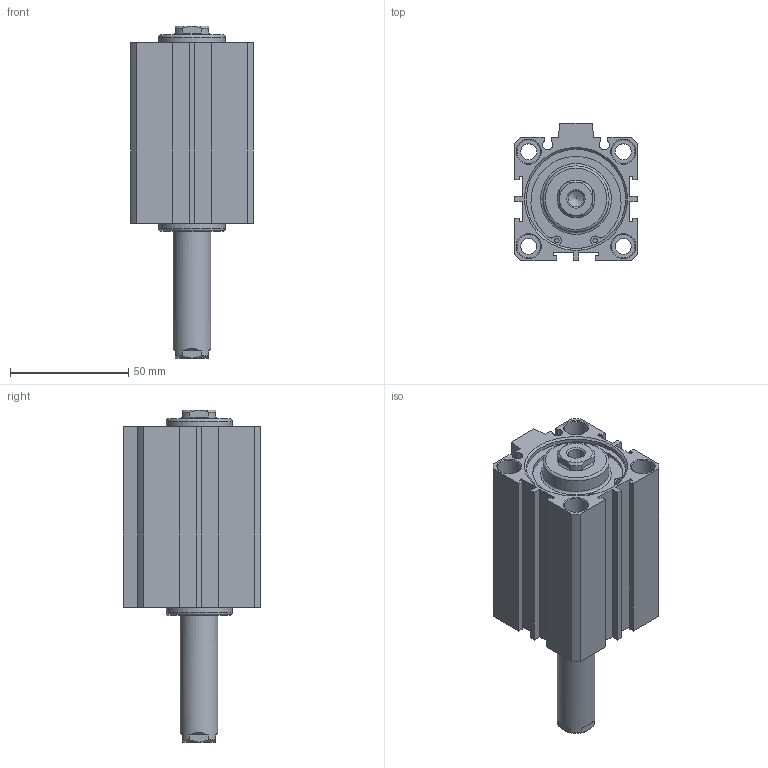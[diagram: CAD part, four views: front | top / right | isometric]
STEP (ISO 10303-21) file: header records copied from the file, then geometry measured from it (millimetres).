
FILE_DESCRIPTION((''),'2;1');
FILE_NAME('I:\3D電子目錄\氣缸\JDD\JDD\JDD40\JDD40x50.stp','2007-02-08T10:55:59',('662F206'),(''),'Autodesk Inventor 10','Autodesk Inventor 10','');
FILE_SCHEMA(('AUTOMOTIVE_DESIGN { 1 0 10303 214 1 1 1 1 }'));
Length unit declared in the file: millimetre
Products named in the file (3): JDD40; R 形環 42
Assembly tree (3 placements, depth 2):
  JDD40
    JDD40
    R 形環 42  x2
Bounding box: 52 x 58 x 140.5 mm (x, y, z)
Volume: 191606.7 mm3; surface area: 43467.2 mm2
Topology: 3 solids, 3 shells, 179 faces, 431 edges, 280 vertices
Faces by surface type: plane 98, cylinder 49, cone 24, bspline 6, torus 2
Full cylindrical faces by diameter (mm): 1.9 x4, 2.2 x2, 6.8 x4, 10 x8, 16 x1, 28 x2, 42 x4, 44.5 x2
Entity records: 4755 total; most frequent: CARTESIAN_POINT 955, DIRECTION 792, ORIENTED_EDGE 686, EDGE_CURVE 343, AXIS2_PLACEMENT_3D 298, VERTEX_POINT 251, EDGE_LOOP 250, VECTOR 196
